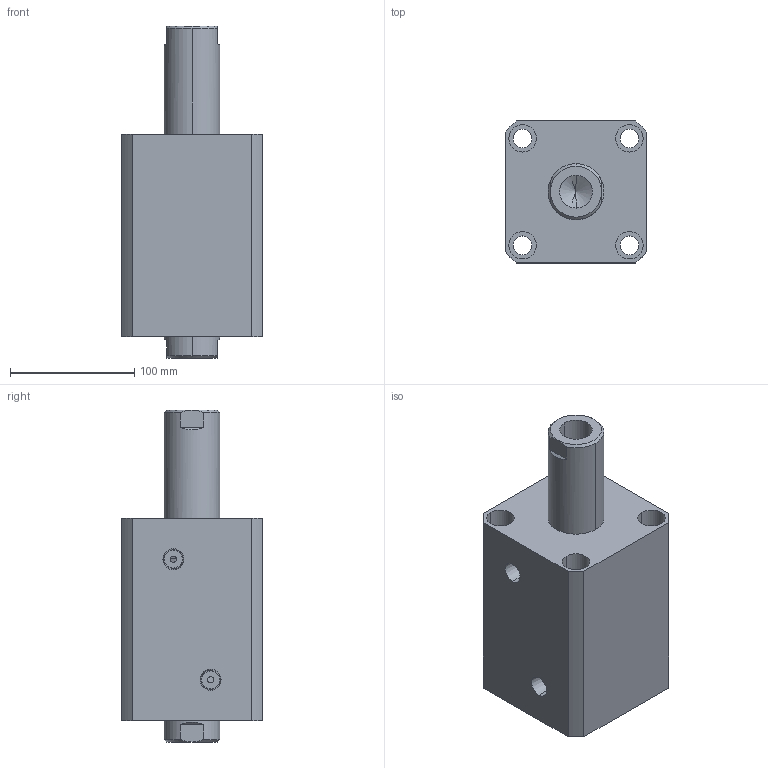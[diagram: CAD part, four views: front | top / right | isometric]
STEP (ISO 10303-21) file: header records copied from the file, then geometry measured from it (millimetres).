
FILE_DESCRIPTION (( 'STEP AP214' ), '1' );
FILE_NAME ('chtb-sw80x70n_asm.STEP', '2018-05-28T00:54:05', ( 'Windows' ), ( 'Microsoft' ), 'SwSTEP 2.0', 'SolidWorks 2015', '' );
FILE_SCHEMA (( 'AUTOMOTIVE_DESIGN' ));
Length unit declared in the file: millimetre
Products named in the file (4): CHTB-SD80X70NHSG; CHTB-SD80QG; chtb-sw80x70n_asm; CHTB-SW80X70NBT
Assembly tree (3 placements, depth 2):
  chtb-sw80x70n_asm
    CHTB-SD80QG
    CHTB-SD80X70NHSG
    CHTB-SW80X70NBT
Bounding box: 114 x 114 x 267 mm (x, y, z)
Volume: 1812965.7 mm3; surface area: 250761.4 mm2
Topology: 3 solids, 3 shells, 208 faces, 550 edges, 365 vertices
Faces by surface type: cylinder 109, plane 42, cone 25, torus 18, bspline 14
Entity records: 15645 total; most frequent: CARTESIAN_POINT 10539, ORIENTED_EDGE 1084, DIRECTION 970, EDGE_CURVE 542, AXIS2_PLACEMENT_3D 407, VERTEX_POINT 365, EDGE_LOOP 249, ADVANCED_FACE 208
